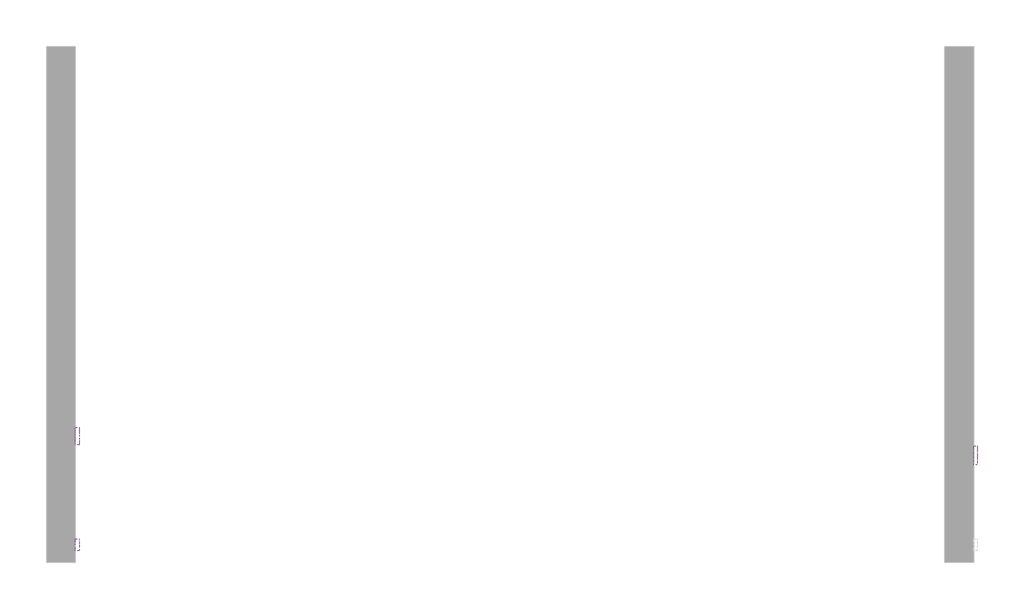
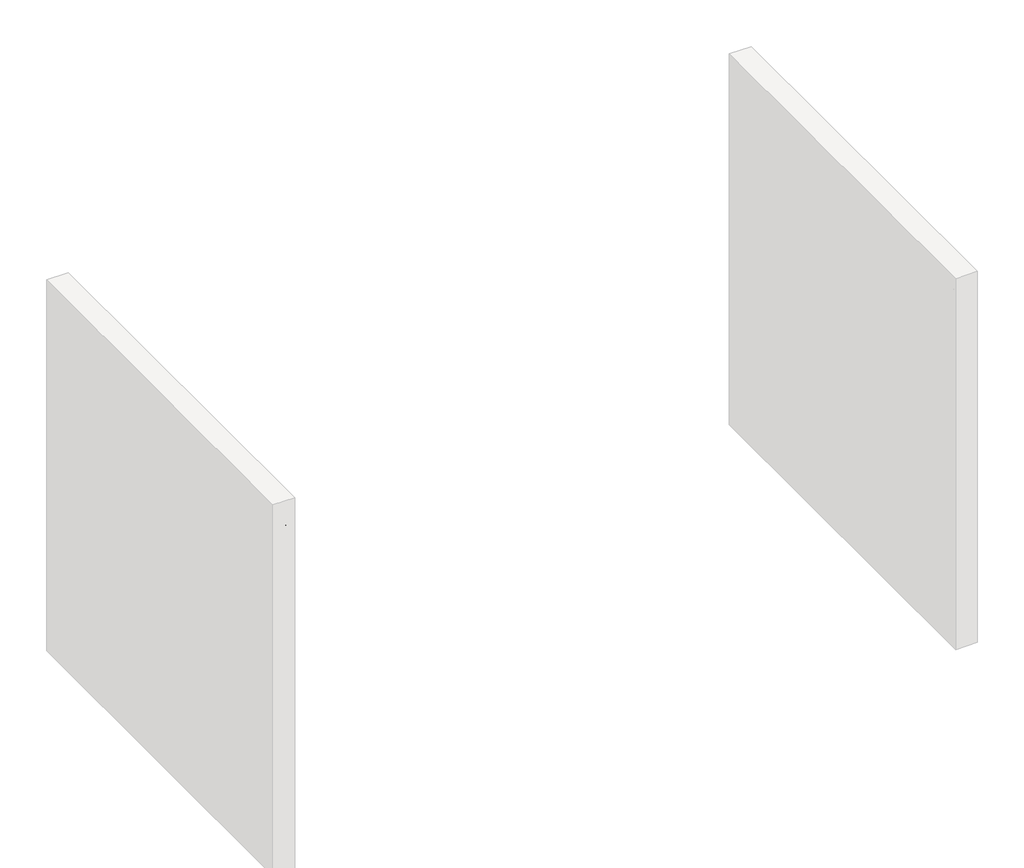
# One storey, part 2 of 12: 3 proxies.
"""IFC4 building model written with IfcOpenShell, lengths in millimetres."""

from ifc_helpers import new_model, si_unit, frame, origin, place, context, project, spatial, polyline, outline, extrude, element, save

model = new_model("IFC4")

# Units and contexts
model_context = context("Model", 3, world=origin())
ifc_project = project(units=[si_unit("LENGTHUNIT", "METRE", prefix="MILLI")], contexts=[model_context])

# Site, building, storey
site = spatial("IfcSite", under=ifc_project)
building = spatial("IfcBuilding", under=site)
storey = spatial("IfcBuildingStorey", under=building, Name="PORTOBELLO - SHOWROOM", Elevation=0.0)

# Proxies
placement = place(None, origin())
element("IfcBuildingElementProxy", 1, Name="10mm Arial", ObjectType="10mm Arial", at=placement, inside=storey, context=model_context, shape_type="SweptSolid", body=[
    extrude(outline(polyline([(-9176.6101833, 2548.8308244), (-9136.5110458, 2649.2871345), (-9125.8179425, 2649.2871345), (-9085.718805, 2548.8308244), (-9098.9870823, 2548.8308244), (-9110.489526, 2580.2234213), (-9151.8639877, 2580.2234213), (-9163.341906, 2548.8308244), (-9176.6101833, 2548.8308244)]), holes=[polyline([(-9147.2532, 2592.7804601), (-9115.0757882, 2592.7804601), (-9124.1256853, 2617.4776047), (-9131.1644941, 2636.7300958), (-9137.418488, 2619.6358457), (-9147.2532, 2592.7804601)])]), frame((13302.9163978, 0.0, 0.0), z_axis=(1.0, 0.0, 0.0), x_axis=(0.0, 1.0, 0.0)), (0.0, 0.0, 1.0), 20.0),
    extrude(outline(polyline([(-9073.8730047, 2548.8308244), (-9073.8730047, 2622.6034272), (-9062.8855958, 2622.6034272), (-9062.8855958, 2611.6895946), (-9055.0864975, 2621.7450358), (-9047.2383483, 2624.173057), (-9034.6322586, 2620.2980333), (-9038.8261133, 2609.0408443), (-9047.6552812, 2611.6160182), (-9054.7554037, 2609.1389461), (-9059.2803523, 2602.2718156), (-9061.315966, 2587.6055867), (-9061.315966, 2548.8308244), (-9073.8730047, 2548.8308244)])), frame((13302.9163978, 0.0, 0.0), z_axis=(1.0, 0.0, 0.0), x_axis=(0.0, 1.0, 0.0)), (0.0, 0.0, 1.0), 20.0),
    extrude(outline(polyline([(-8979.695214, 2575.5145318), (-8967.1381752, 2573.9449019), (-8970.6391855, 2562.7766177), (-8977.2181419, 2554.3367916), (-8986.2557762, 2549.0300938), (-8997.1328205, 2547.2611945), (-9010.4900027, 2549.7290696), (-9020.9347856, 2557.1326947), (-9027.6762232, 2569.1471076), (-9029.923369, 2585.4473456), (-9026.0851336, 2606.3062548), (-9014.3864861, 2619.7094221), (-8997.3044988, 2624.173057), (-8986.6941689, 2622.6402154), (-8978.2114233, 2618.0416904), (-8972.1260419, 2610.6227368), (-8968.707805, 2600.6286093), (-8981.2648438, 2599.0589795), (-8987.0896421, 2608.4644958), (-8997.2063969, 2611.6160182), (-9005.3212606, 2610.0647825), (-9011.7622612, 2605.4110752), (-9015.965313, 2597.4035105), (-9017.3663303, 2585.7907022), (-9015.9959698, 2574.021544), (-9011.8848885, 2565.9863881), (-9005.5603839, 2561.360272), (-8997.5497535, 2559.8182333), (-8985.716216, 2563.6687315), (-8979.695214, 2575.5145318)])), frame((13302.9163978, 0.0, 0.0), z_axis=(1.0, 0.0, 0.0), x_axis=(0.0, 1.0, 0.0)), (0.0, 0.0, 1.0), 20.0),
    extrude(outline(polyline([(-8959.290026, 2585.7171258), (-8956.5738306, 2603.5042202), (-8948.4252444, 2616.0060767), (-8938.3575404, 2622.1313119), (-8926.3032737, 2624.173057), (-8913.1116385, 2621.6867878), (-8902.574885, 2614.2279804), (-8895.6679006, 2602.3852458), (-8893.3655724, 2586.7471954), (-8897.4367999, 2564.4044955), (-8909.2948628, 2551.7616176), (-8926.3032737, 2547.2611945), (-8939.6543245, 2549.7382666), (-8950.1788152, 2557.1694829), (-8957.0122233, 2569.2605379), (-8959.290026, 2585.7171258)]), holes=[polyline([(-8946.7329872, 2585.7416512), (-8945.2798533, 2574.3771633), (-8940.9204517, 2566.2806937), (-8934.3598894, 2561.4338484), (-8926.3032737, 2559.8182333), (-8918.2834462, 2561.4430455), (-8911.7351467, 2566.3174819), (-8907.3757451, 2574.5212504), (-8905.9226112, 2586.1340587), (-8907.3849421, 2597.1674529), (-8911.7719349, 2605.1535578), (-8918.3294315, 2610.0004031), (-8926.3032737, 2611.6160182), (-8934.3598894, 2610.0065345), (-8940.9204517, 2605.1780833), (-8945.2798533, 2597.1000078), (-8946.7329872, 2585.7416512)])]), frame((13302.9163978, 0.0, 0.0), z_axis=(1.0, 0.0, 0.0), x_axis=(0.0, 1.0, 0.0)), (0.0, 0.0, 1.0), 20.0),
    extrude(outline(polyline([(-8843.1374174, 2583.362681), (-8830.5803786, 2583.362681), (-8826.5336766, 2570.7933795), (-8816.6499137, 2562.8471284), (-8801.5912774, 2559.8182333), (-8788.4701529, 2562.1113644), (-8779.9966043, 2568.4144093), (-8777.2129638, 2576.838907), (-8779.2976285, 2584.6747934), (-8787.8324908, 2590.3769644), (-8806.1162259, 2595.171693), (-8825.7979127, 2601.3643733), (-8836.4787532, 2610.708576), (-8839.9981577, 2623.1920383), (-8835.6448874, 2637.4045461), (-8822.9284331, 2647.4354618), (-8804.3136041, 2650.8567644), (-8784.4479764, 2647.2760463), (-8771.2042246, 2636.7546212), (-8766.2255549, 2621.0337973), (-8778.7825937, 2621.0337973), (-8781.0879875, 2628.5263273), (-8785.8949789, 2633.9341926), (-8803.8230948, 2638.2997256), (-8821.8002616, 2633.9832435), (-8827.4411189, 2623.5599203), (-8823.4434679, 2614.8533798), (-8802.940178, 2607.8390964), (-8780.7201055, 2601.5360516), (-8768.5677369, 2591.357983), (-8764.6559251, 2577.157738), (-8769.1563481, 2562.1358899), (-8782.1057944, 2551.1730064), (-8801.100768, 2547.2611945), (-8823.529307, 2551.4795747), (-8837.7172893, 2564.1837663), (-8843.1374174, 2583.362681)])), frame((13302.9163978, 0.0, 0.0), z_axis=(1.0, 0.0, 0.0), x_axis=(0.0, 1.0, 0.0)), (0.0, 0.0, 1.0), 20.0),
    extrude(outline(polyline([(13322.9163978, -8734.832958), (13322.9163978, -8747.3899968), (13302.9163978, -8747.3899968), (13302.9163978, -8734.832958), (13322.9163978, -8734.832958)])), frame((0.0, 0.0, 2636.7300958), z_axis=(0.0, 0.0, 1.0), x_axis=(1.0, 0.0, 0.0)), (0.0, 0.0, 1.0), 12.5570388),
    extrude(outline(polyline([(13322.9163978, -8734.832958), (13322.9163978, -8747.3899968), (13302.9163978, -8747.3899968), (13302.9163978, -8734.832958), (13322.9163978, -8734.832958)])), frame((0.0, 0.0, 2548.8308244), z_axis=(0.0, 0.0, 1.0), x_axis=(1.0, 0.0, 0.0)), (0.0, 0.0, 1.0), 73.7726028),
    extrude(outline(polyline([(-8715.9973998, 2548.8308244), (-8715.9973998, 2622.6034272), (-8703.4403611, 2622.6034272), (-8703.4403611, 2610.4633213), (-8694.8073969, 2620.4083979), (-8682.5201383, 2624.173057), (-8669.938574, 2620.3348215), (-8663.0223925, 2609.5804045), (-8653.2244687, 2620.5248939), (-8640.8513709, 2624.173057), (-8631.4121321, 2622.6555438), (-8624.4315712, 2618.1030041), (-8620.1181548, 2610.3928106), (-8618.6803494, 2599.402336), (-8618.6803494, 2548.8308244), (-8631.2373881, 2548.8308244), (-8631.2373881, 2594.0067334), (-8632.4023478, 2604.4913703), (-8636.620728, 2609.6539809), (-8643.7944269, 2611.6160182), (-8656.1429992, 2606.5882976), (-8659.8310162, 2600.0461295), (-8661.0603552, 2590.4750662), (-8661.0603552, 2548.8308244), (-8673.617394, 2548.8308244), (-8673.617394, 2595.404685), (-8676.5236617, 2607.5693163), (-8686.0518054, 2611.6160182), (-8695.3469572, 2608.9182169), (-8701.5273747, 2601.0210168), (-8703.4403611, 2586.0359568), (-8703.4403611, 2548.8308244), (-8715.9973998, 2548.8308244)])), frame((13302.9163978, 0.0, 0.0), z_axis=(1.0, 0.0, 0.0), x_axis=(0.0, 1.0, 0.0)), (0.0, 0.0, 1.0), 20.0),
    extrude(outline(polyline([(-8599.8447912, 2520.5774872), (-8599.8447912, 2622.6034272), (-8587.2877524, 2622.6034272), (-8587.2877524, 2610.291643), (-8578.6057374, 2620.7027035), (-8566.8825645, 2624.173057), (-8550.9655368, 2619.3170147), (-8540.5667391, 2605.6318044), (-8537.0595974, 2586.2812115), (-8541.0204602, 2565.9373372), (-8552.5229039, 2552.0804487), (-8568.4031434, 2547.2611945), (-8579.3292386, 2550.4862934), (-8587.2877524, 2558.6410109), (-8587.2877524, 2520.5774872), (-8599.8447912, 2520.5774872)]), holes=[polyline([(-8587.2877524, 2585.1285146), (-8585.9296548, 2573.8713255), (-8581.8553617, 2565.9986508), (-8575.8435567, 2561.3633377), (-8568.6729235, 2559.8182333), (-8561.3857943, 2561.41852), (-8555.2207052, 2566.21938), (-8551.0176534, 2574.3802289), (-8549.6166361, 2586.0604823), (-8550.9839309, 2597.2563577), (-8555.0858151, 2605.239397), (-8561.088423, 2610.0218629), (-8568.1578887, 2611.6160182), (-8575.2549455, 2609.9206954), (-8581.4874797, 2604.8347268), (-8585.8376843, 2596.517528), (-8587.2877524, 2585.1285146)])]), frame((13302.9163978, 0.0, 0.0), z_axis=(1.0, 0.0, 0.0), x_axis=(0.0, 1.0, 0.0)), (0.0, 0.0, 1.0), 20.0),
    extrude(outline(polyline([(13322.9163978, -8510.37589), (13322.9163978, -8522.9329288), (13302.9163978, -8522.9329288), (13302.9163978, -8510.37589), (13322.9163978, -8510.37589)])), frame((0.0, 0.0, 2548.8308244), z_axis=(0.0, 0.0, 1.0), x_axis=(1.0, 0.0, 0.0)), (0.0, 0.0, 1.0), 100.4563101),
    extrude(outline(polyline([(-8439.8896997, 2570.8056422), (-8427.5779156, 2569.2360124), (-8432.0139593, 2559.9592547), (-8439.0926221, 2553.0246791), (-8448.6544883, 2548.7020657), (-8460.5401424, 2547.2611945), (-8475.2738163, 2549.7474637), (-8486.6107131, 2557.2062711), (-8493.8395943, 2569.1532389), (-8496.2492214, 2585.1039891), (-8493.8150688, 2601.5912339), (-8486.5126112, 2613.9214121), (-8475.3289986, 2621.6101458), (-8461.2513809, 2624.173057), (-8447.6121559, 2621.6162771), (-8436.7136518, 2613.9459375), (-8429.5675441, 2601.6402848), (-8427.1855081, 2585.1775655), (-8427.2590845, 2581.7930512), (-8483.6921826, 2581.7930512), (-8481.5186132, 2572.3936662), (-8476.4694328, 2565.483616), (-8469.1823036, 2561.234579), (-8460.2948877, 2559.8182333), (-8447.9831036, 2562.4424582), (-8439.8896997, 2570.8056422)]), holes=[polyline([(-8483.6921826, 2594.3500899), (-8439.7425469, 2594.3500899), (-8444.7702675, 2605.7299063), (-8452.0911192, 2610.1444902), (-8461.3004318, 2611.6160182), (-8476.7637384, 2606.9193914), (-8481.6289778, 2601.4287526), (-8483.6921826, 2594.3500899)])]), frame((13302.9163978, 0.0, 0.0), z_axis=(1.0, 0.0, 0.0), x_axis=(0.0, 1.0, 0.0)), (0.0, 0.0, 1.0), 20.0),
    extrude(outline(polyline([(-8419.3373589, 2570.8056422), (-8406.7803201, 2572.3752721), (-8400.9677846, 2563.0555949), (-8387.6504564, 2559.8182333), (-8374.848163, 2562.7858147), (-8370.6788337, 2569.7510472), (-8374.8726884, 2575.3919044), (-8387.7976092, 2578.9726225), (-8406.7067438, 2585.1162518), (-8414.9595632, 2592.2899507), (-8417.7677291, 2602.4189683), (-8415.5113862, 2611.7754338), (-8409.3554941, 2618.9246072), (-8401.3724548, 2622.6402154), (-8390.5689869, 2624.173057), (-8375.2896214, 2621.7082476), (-8365.5775367, 2615.0373208), (-8361.2610546, 2603.767869), (-8373.8180934, 2602.1982392), (-8378.5392457, 2609.1266834), (-8389.5879682, 2611.6160182), (-8401.6054468, 2609.237048), (-8405.2106903, 2603.6942926), (-8403.7146369, 2600.0399981), (-8399.0302728, 2597.2686204), (-8388.2145421, 2594.5953446), (-8369.7836542, 2588.6847072), (-8361.2242664, 2581.9892549), (-8358.1217949, 2571.0754224), (-8361.7638267, 2559.0579439), (-8372.272989, 2550.3391406), (-8387.8221347, 2547.2611945), (-8400.4834067, 2548.7449853), (-8409.7233761, 2553.1963574), (-8415.8915309, 2560.56626), (-8419.3373589, 2570.8056422)])), frame((13302.9163978, 0.0, 0.0), z_axis=(1.0, 0.0, 0.0), x_axis=(0.0, 1.0, 0.0)), (0.0, 0.0, 1.0), 20.0),
    extrude(outline(polyline([(-8253.103748, 2570.8056422), (-8240.7919639, 2569.2360124), (-8245.2280077, 2559.9592547), (-8252.3066704, 2553.0246791), (-8261.8685366, 2548.7020657), (-8273.7541907, 2547.2611945), (-8288.4878646, 2549.7474637), (-8299.8247614, 2557.2062711), (-8307.0536426, 2569.1532389), (-8309.4632697, 2585.1039891), (-8307.0291172, 2601.5912339), (-8299.7266596, 2613.9214121), (-8288.5430469, 2621.6101458), (-8274.4654292, 2624.173057), (-8260.8262042, 2621.6162771), (-8249.9277001, 2613.9459375), (-8242.7815924, 2601.6402848), (-8240.3995565, 2585.1775655), (-8240.4731329, 2581.7930512), (-8296.9062309, 2581.7930512), (-8294.7326615, 2572.3936662), (-8289.6834811, 2565.483616), (-8282.3963519, 2561.234579), (-8273.508936, 2559.8182333), (-8261.1971519, 2562.4424582), (-8253.103748, 2570.8056422)]), holes=[polyline([(-8296.9062309, 2594.3500899), (-8252.9565952, 2594.3500899), (-8257.9843158, 2605.7299063), (-8265.3051675, 2610.1444902), (-8274.5144802, 2611.6160182), (-8289.9777867, 2606.9193914), (-8294.8430261, 2601.4287526), (-8296.9062309, 2594.3500899)])]), frame((13302.9163978, 0.0, 0.0), z_axis=(1.0, 0.0, 0.0), x_axis=(0.0, 1.0, 0.0)), (0.0, 0.0, 1.0), 20.0),
    extrude(outline(polyline([(-8161.9180642, 2548.8308244), (-8161.9180642, 2636.7300958), (-8194.8802909, 2636.7300958), (-8194.8802909, 2649.2871345), (-8116.3987986, 2649.2871345), (-8116.3987986, 2636.7300958), (-8149.3610254, 2636.7300958), (-8149.3610254, 2548.8308244), (-8161.9180642, 2548.8308244)])), frame((13302.9163978, 0.0, 0.0), z_axis=(1.0, 0.0, 0.0), x_axis=(0.0, 1.0, 0.0)), (0.0, 0.0, 1.0), 20.0),
    extrude(outline(polyline([(-8103.8417599, 2548.8308244), (-8103.8417599, 2622.6034272), (-8092.8543509, 2622.6034272), (-8092.8543509, 2611.6895946), (-8085.0552526, 2621.7450358), (-8077.2071034, 2624.173057), (-8064.6010137, 2620.2980333), (-8068.7948684, 2609.0408443), (-8077.6240363, 2611.6160182), (-8084.7241588, 2609.1389461), (-8089.2491074, 2602.2718156), (-8091.2847211, 2587.6055867), (-8091.2847211, 2548.8308244), (-8103.8417599, 2548.8308244)])), frame((13302.9163978, 0.0, 0.0), z_axis=(1.0, 0.0, 0.0), x_axis=(0.0, 1.0, 0.0)), (0.0, 0.0, 1.0), 20.0),
    extrude(outline(polyline([(13322.9163978, -8044.1958257), (13322.9163978, -8056.7528645), (13302.9163978, -8056.7528645), (13302.9163978, -8044.1958257), (13322.9163978, -8044.1958257)])), frame((0.0, 0.0, 2636.7300958), z_axis=(0.0, 0.0, 1.0), x_axis=(1.0, 0.0, 0.0)), (0.0, 0.0, 1.0), 12.5570388),
    extrude(outline(polyline([(13322.9163978, -8044.1958257), (13322.9163978, -8056.7528645), (13302.9163978, -8056.7528645), (13302.9163978, -8044.1958257), (13322.9163978, -8044.1958257)])), frame((0.0, 0.0, 2548.8308244), z_axis=(0.0, 0.0, 1.0), x_axis=(1.0, 0.0, 0.0)), (0.0, 0.0, 1.0), 73.7726028),
    extrude(outline(polyline([(-8025.3602676, 2520.5774872), (-8025.3602676, 2622.6034272), (-8012.8032288, 2622.6034272), (-8012.8032288, 2610.291643), (-8004.1212137, 2620.7027035), (-7992.3980408, 2624.173057), (-7976.4810131, 2619.3170147), (-7966.0822154, 2605.6318044), (-7962.5750737, 2586.2812115), (-7966.5359365, 2565.9373372), (-7978.0383802, 2552.0804487), (-7993.9186197, 2547.2611945), (-8004.844715, 2550.4862934), (-8012.8032288, 2558.6410109), (-8012.8032288, 2520.5774872), (-8025.3602676, 2520.5774872)]), holes=[polyline([(-8012.8032288, 2585.1285146), (-8011.4451311, 2573.8713255), (-8007.370838, 2565.9986508), (-8001.359033, 2561.3633377), (-7994.1883998, 2559.8182333), (-7986.9012706, 2561.41852), (-7980.7361815, 2566.21938), (-7976.5331297, 2574.3802289), (-7975.1321125, 2586.0604823), (-7976.4994072, 2597.2563577), (-7980.6012915, 2605.239397), (-7986.6038994, 2610.0218629), (-7993.673365, 2611.6160182), (-8000.7704219, 2609.9206954), (-8007.002956, 2604.8347268), (-8011.3531606, 2596.517528), (-8012.8032288, 2585.1285146)])]), frame((13302.9163978, 0.0, 0.0), z_axis=(1.0, 0.0, 0.0), x_axis=(0.0, 1.0, 0.0)), (0.0, 0.0, 1.0), 20.0),
    extrude(outline(polyline([(13322.9163978, -7935.8913663), (13322.9163978, -7948.4484051), (13302.9163978, -7948.4484051), (13302.9163978, -7935.8913663), (13322.9163978, -7935.8913663)])), frame((0.0, 0.0, 2548.8308244), z_axis=(0.0, 0.0, 1.0), x_axis=(1.0, 0.0, 0.0)), (0.0, 0.0, 1.0), 100.4563101),
    extrude(outline(polyline([(-7920.1950679, 2585.7171258), (-7917.4788725, 2603.5042202), (-7909.3302863, 2616.0060767), (-7899.2625823, 2622.1313119), (-7887.2083156, 2624.173057), (-7874.0166804, 2621.6867878), (-7863.4799269, 2614.2279804), (-7856.5729425, 2602.3852458), (-7854.2706143, 2586.7471954), (-7858.3418417, 2564.4044955), (-7870.1999047, 2551.7616176), (-7887.2083156, 2547.2611945), (-7900.5593664, 2549.7382666), (-7911.0838571, 2557.1694829), (-7917.9172652, 2569.2605379), (-7920.1950679, 2585.7171258)]), holes=[polyline([(-7907.6380291, 2585.7416512), (-7906.1848952, 2574.3771633), (-7901.8254936, 2566.2806937), (-7895.2649313, 2561.4338484), (-7887.2083156, 2559.8182333), (-7879.1884881, 2561.4430455), (-7872.6401886, 2566.3174819), (-7868.280787, 2574.5212504), (-7866.8276531, 2586.1340587), (-7868.289984, 2597.1674529), (-7872.6769768, 2605.1535578), (-7879.2344734, 2610.0004031), (-7887.2083156, 2611.6160182), (-7895.2649313, 2610.0065345), (-7901.8254936, 2605.1780833), (-7906.1848952, 2597.1000078), (-7907.6380291, 2585.7416512)])]), frame((13302.9163978, 0.0, 0.0), z_axis=(1.0, 0.0, 0.0), x_axis=(0.0, 1.0, 0.0)), (0.0, 0.0, 1.0), 20.0),
])
element("IfcBuildingElementProxy", 2, Name="10mm Arial", ObjectType="10mm Arial", at=placement, inside=storey, context=model_context, shape_type="SweptSolid", body=[
    extrude(outline(polyline([(-9164.9115358, 2548.8308244), (-9164.9115358, 2649.2871345), (-9151.4715803, 2649.2871345), (-9098.9870823, 2569.7019962), (-9098.9870823, 2649.2871345), (-9086.4300435, 2649.2871345), (-9086.4300435, 2548.8308244), (-9099.8699991, 2548.8308244), (-9152.354497, 2628.4404881), (-9152.354497, 2548.8308244), (-9164.9115358, 2548.8308244)])), frame((8602.9163978, 0.0, 0.0), z_axis=(1.0, 0.0, 0.0), x_axis=(0.0, 1.0, 0.0)), (0.0, 0.0, 1.0), 20.0),
    extrude(outline(polyline([(-9069.1641152, 2585.7171258), (-9066.4479198, 2603.5042202), (-9058.2993336, 2616.0060767), (-9048.2316297, 2622.1313119), (-9036.177363, 2624.173057), (-9022.9857278, 2621.6867878), (-9012.4489743, 2614.2279804), (-9005.5419898, 2602.3852458), (-9003.2396617, 2586.7471954), (-9007.3108891, 2564.4044955), (-9019.1689521, 2551.7616176), (-9036.177363, 2547.2611945), (-9049.5284137, 2549.7382666), (-9060.0529045, 2557.1694829), (-9066.8863125, 2569.2605379), (-9069.1641152, 2585.7171258)]), holes=[polyline([(-9056.6070764, 2585.7416512), (-9055.1539425, 2574.3771633), (-9050.7945409, 2566.2806937), (-9044.2339787, 2561.4338484), (-9036.177363, 2559.8182333), (-9028.1575355, 2561.4430455), (-9021.609236, 2566.3174819), (-9017.2498343, 2574.5212504), (-9015.7967004, 2586.1340587), (-9017.2590314, 2597.1674529), (-9021.6460242, 2605.1535578), (-9028.2035207, 2610.0004031), (-9036.177363, 2611.6160182), (-9044.2339787, 2610.0065345), (-9050.7945409, 2605.1780833), (-9055.1539425, 2597.1000078), (-9056.6070764, 2585.7416512)])]), frame((8602.9163978, 0.0, 0.0), z_axis=(1.0, 0.0, 0.0), x_axis=(0.0, 1.0, 0.0)), (0.0, 0.0, 1.0), 20.0),
    extrude(outline(polyline([(-8971.0131989, 2548.8308244), (-8996.9611423, 2622.6034272), (-8983.6683395, 2622.6034272), (-8967.9475156, 2578.4085368), (-8963.2141006, 2563.5461042), (-8958.5787874, 2577.5746709), (-8942.7598617, 2622.6034272), (-8929.4670589, 2622.6034272), (-8955.0961712, 2548.8308244), (-8971.0131989, 2548.8308244)])), frame((8602.9163978, 0.0, 0.0), z_axis=(1.0, 0.0, 0.0), x_axis=(0.0, 1.0, 0.0)), (0.0, 0.0, 1.0), 20.0),
    extrude(outline(polyline([(-8866.8290179, 2570.8056422), (-8854.5172337, 2569.2360124), (-8858.9532775, 2559.9592547), (-8866.0319402, 2553.0246791), (-8875.5938064, 2548.7020657), (-8887.4794605, 2547.2611945), (-8902.2131344, 2549.7474637), (-8913.5500312, 2557.2062711), (-8920.7789124, 2569.1532389), (-8923.1885395, 2585.1039891), (-8920.754387, 2601.5912339), (-8913.4519294, 2613.9214121), (-8902.2683167, 2621.6101458), (-8888.190699, 2624.173057), (-8874.5514741, 2621.6162771), (-8863.65297, 2613.9459375), (-8856.5068622, 2601.6402848), (-8854.1248263, 2585.1775655), (-8854.1984027, 2581.7930512), (-8910.6315007, 2581.7930512), (-8908.4579313, 2572.3936662), (-8903.4087509, 2565.483616), (-8896.1216217, 2561.234579), (-8887.2342059, 2559.8182333), (-8874.9224217, 2562.4424582), (-8866.8290179, 2570.8056422)]), holes=[polyline([(-8910.6315007, 2594.3500899), (-8866.6818651, 2594.3500899), (-8871.7095857, 2605.7299063), (-8879.0304374, 2610.1444902), (-8888.23975, 2611.6160182), (-8903.7030565, 2606.9193914), (-8908.5682959, 2601.4287526), (-8910.6315007, 2594.3500899)])]), frame((8602.9163978, 0.0, 0.0), z_axis=(1.0, 0.0, 0.0), x_axis=(0.0, 1.0, 0.0)), (0.0, 0.0, 1.0), 20.0),
    extrude(outline(polyline([(-8841.5677875, 2548.8308244), (-8841.5677875, 2622.6034272), (-8829.0107487, 2622.6034272), (-8829.0107487, 2612.3027313), (-8819.4090287, 2621.2054756), (-8806.3001669, 2624.173057), (-8794.4421039, 2621.781824), (-8786.3487, 2615.5033046), (-8782.584041, 2606.2694666), (-8781.9218534, 2594.1293607), (-8781.9218534, 2548.8308244), (-8794.4788921, 2548.8308244), (-8794.4788921, 2592.4371035), (-8795.9258946, 2603.5471398), (-8801.0394544, 2609.420989), (-8809.6601558, 2611.6160182), (-8823.2840524, 2606.6863995), (-8827.5790746, 2599.5433574), (-8829.0107487, 2587.9734687), (-8829.0107487, 2548.8308244), (-8841.5677875, 2548.8308244)])), frame((8602.9163978, 0.0, 0.0), z_axis=(1.0, 0.0, 0.0), x_axis=(0.0, 1.0, 0.0)), (0.0, 0.0, 1.0), 20.0),
    extrude(outline(polyline([(-8737.9722177, 2559.3031985), (-8736.4025878, 2548.4629424), (-8745.7958414, 2547.2611945), (-8756.3172665, 2549.3458592), (-8761.5657163, 2554.8150382), (-8763.0862952, 2569.0643341), (-8763.0862952, 2610.0463884), (-8772.5040743, 2610.0463884), (-8772.5040743, 2622.6034272), (-8763.0862952, 2622.6034272), (-8763.0862952, 2640.531543), (-8750.5292564, 2647.9137084), (-8750.5292564, 2622.6034272), (-8737.9722177, 2622.6034272), (-8737.9722177, 2610.0463884), (-8750.5292564, 2610.0463884), (-8750.5292564, 2569.4322161), (-8749.8670689, 2562.957493), (-8747.7210905, 2560.6643619), (-8743.4413967, 2559.8182333), (-8737.9722177, 2559.3031985)])), frame((8602.9163978, 0.0, 0.0), z_axis=(1.0, 0.0, 0.0), x_axis=(0.0, 1.0, 0.0)), (0.0, 0.0, 1.0), 20.0),
    extrude(outline(polyline([(-8678.3262835, 2558.2486035), (-8690.5031776, 2549.7382666), (-8703.9553959, 2547.2611945), (-8714.4492298, 2548.7511166), (-8722.1900801, 2553.2208829), (-8726.963349, 2560.0083057), (-8728.5544386, 2568.4511975), (-8726.1509429, 2578.3840113), (-8719.8356353, 2585.5944984), (-8711.0432556, 2589.7147768), (-8700.178474, 2591.6032377), (-8678.3998599, 2595.9197198), (-8678.3262835, 2598.7156229), (-8681.7843743, 2607.9862492), (-8695.6657882, 2611.6160182), (-8708.3699798, 2609.2002598), (-8714.42777, 2600.6286093), (-8726.9848088, 2602.1982392), (-8721.552418, 2614.4609723), (-8710.61406, 2621.646934), (-8694.0471075, 2624.173057), (-8678.8290556, 2621.9412396), (-8670.2328796, 2616.3371705), (-8666.3823814, 2607.8145709), (-8665.7692448, 2596.827162), (-8665.7692448, 2581.20444), (-8665.1315826, 2559.3890376), (-8662.6299851, 2548.8308244), (-8675.1870238, 2548.8308244), (-8678.3262835, 2558.2486035)]), holes=[polyline([(-8678.3262835, 2583.362681), (-8698.5843187, 2579.5121828), (-8709.3877866, 2577.4765691), (-8714.2806172, 2574.1656311), (-8715.9973998, 2569.3341142), (-8712.2572662, 2562.5405601), (-8701.28212, 2559.8182333), (-8688.5779285, 2562.8226029), (-8680.3864227, 2570.0944037), (-8678.3998599, 2579.8064884), (-8678.3262835, 2583.362681)])]), frame((8602.9163978, 0.0, 0.0), z_axis=(1.0, 0.0, 0.0), x_axis=(0.0, 1.0, 0.0)), (0.0, 0.0, 1.0), 20.0),
    extrude(outline(polyline([(-8560.6040451, 2588.0715705), (-8560.6040451, 2600.6286093), (-8519.7936691, 2600.6286093), (-8519.7936691, 2563.0801203), (-8539.9413397, 2551.2343201), (-8561.2417072, 2547.2611945), (-8575.3285219, 2548.8400214), (-8588.0603046, 2553.5765021), (-8598.636912, 2561.3050897), (-8606.2582007, 2571.8602373), (-8610.8659227, 2584.5215093), (-8612.40183, 2598.5684701), (-8610.872054, 2612.7165985), (-8606.2827261, 2625.8775769), (-8598.8239187, 2636.9171024), (-8588.685704, 2644.7008723), (-8576.3371317, 2649.3177914), (-8562.2472513, 2650.8567644), (-8542.6023528, 2647.288309), (-8528.8313034, 2637.3554952), (-8521.2406716, 2620.7394917), (-8532.8166917, 2617.4776047), (-8538.5433881, 2629.090413), (-8548.3290492, 2635.7858653), (-8562.443455, 2638.2997256), (-8578.5198982, 2635.5896616), (-8589.4582562, 2628.4772763), (-8595.9207166, 2618.8019799), (-8599.8447912, 2599.0835049), (-8595.1236389, 2577.1945262), (-8581.3893778, 2564.0979272), (-8562.2472513, 2559.8182333), (-8545.0671621, 2563.0433321), (-8532.3507078, 2569.9227254), (-8532.3507078, 2588.0715705), (-8560.6040451, 2588.0715705)])), frame((8602.9163978, 0.0, 0.0), z_axis=(1.0, 0.0, 0.0), x_axis=(0.0, 1.0, 0.0)), (0.0, 0.0, 1.0), 20.0),
    extrude(outline(polyline([(-8500.9581109, 2548.8308244), (-8500.9581109, 2622.6034272), (-8489.970702, 2622.6034272), (-8489.970702, 2611.6895946), (-8482.1716037, 2621.7450358), (-8474.3234545, 2624.173057), (-8461.7173648, 2620.2980333), (-8465.9112195, 2609.0408443), (-8474.7403874, 2611.6160182), (-8481.8405099, 2609.1389461), (-8486.3654584, 2602.2718156), (-8488.4010721, 2587.6055867), (-8488.4010721, 2548.8308244), (-8500.9581109, 2548.8308244)])), frame((8602.9163978, 0.0, 0.0), z_axis=(1.0, 0.0, 0.0), x_axis=(0.0, 1.0, 0.0)), (0.0, 0.0, 1.0), 20.0),
    extrude(outline(polyline([(-8406.7803201, 2558.2486035), (-8418.9572142, 2549.7382666), (-8432.4094325, 2547.2611945), (-8442.9032664, 2548.7511166), (-8450.6441167, 2553.2208829), (-8455.4173856, 2560.0083057), (-8457.0084752, 2568.4511975), (-8454.6049795, 2578.3840113), (-8448.2896719, 2585.5944984), (-8439.4972923, 2589.7147768), (-8428.6325107, 2591.6032377), (-8406.8538965, 2595.9197198), (-8406.7803201, 2598.7156229), (-8410.2384109, 2607.9862492), (-8424.1198249, 2611.6160182), (-8436.8240164, 2609.2002598), (-8442.8818066, 2600.6286093), (-8455.4388454, 2602.1982392), (-8450.0064546, 2614.4609723), (-8439.0680966, 2621.646934), (-8422.5011441, 2624.173057), (-8407.2830922, 2621.9412396), (-8398.6869163, 2616.3371705), (-8394.836418, 2607.8145709), (-8394.2232814, 2596.827162), (-8394.2232814, 2581.20444), (-8393.5856193, 2559.3890376), (-8391.0840217, 2548.8308244), (-8403.6410605, 2548.8308244), (-8406.7803201, 2558.2486035)]), holes=[polyline([(-8406.7803201, 2583.362681), (-8427.0383554, 2579.5121828), (-8437.8418233, 2577.4765691), (-8442.7346538, 2574.1656311), (-8444.4514365, 2569.3341142), (-8440.7113028, 2562.5405601), (-8429.7361566, 2559.8182333), (-8417.0319651, 2562.8226029), (-8408.8404593, 2570.0944037), (-8406.8538965, 2579.8064884), (-8406.7803201, 2583.362681)])]), frame((8602.9163978, 0.0, 0.0), z_axis=(1.0, 0.0, 0.0), x_axis=(0.0, 1.0, 0.0)), (0.0, 0.0, 1.0), 20.0),
    extrude(outline(polyline([(-8329.8684577, 2548.8308244), (-8329.8684577, 2561.5104905), (-8339.7031697, 2550.8235185), (-8352.5299886, 2547.2611945), (-8364.3390006, 2549.7627921), (-8372.4814555, 2556.0413115), (-8376.2215891, 2565.2874123), (-8376.9573531, 2576.9615343), (-8376.9573531, 2622.6034272), (-8364.4003143, 2622.6034272), (-8364.4003143, 2582.8721717), (-8363.6400248, 2570.0698782), (-8358.6736179, 2562.5528228), (-8349.3171525, 2559.8182333), (-8338.8325156, 2562.6141365), (-8331.9040714, 2570.2292938), (-8329.8684577, 2584.2210723), (-8329.8684577, 2622.6034272), (-8317.3114189, 2622.6034272), (-8317.3114189, 2548.8308244), (-8329.8684577, 2548.8308244)])), frame((8602.9163978, 0.0, 0.0), z_axis=(1.0, 0.0, 0.0), x_axis=(0.0, 1.0, 0.0)), (0.0, 0.0, 1.0), 20.0),
    extrude(outline(polyline([(-8304.7543802, 2570.8056422), (-8292.1973414, 2572.3752721), (-8286.3848059, 2563.0555949), (-8273.0674776, 2559.8182333), (-8260.2651842, 2562.7858147), (-8256.0958549, 2569.7510472), (-8260.2897097, 2575.3919044), (-8273.2146304, 2578.9726225), (-8292.123765, 2585.1162518), (-8300.3765844, 2592.2899507), (-8303.1847503, 2602.4189683), (-8300.9284074, 2611.7754338), (-8294.7725154, 2618.9246072), (-8286.7894761, 2622.6402154), (-8275.9860081, 2624.173057), (-8260.7066426, 2621.7082476), (-8250.9945579, 2615.0373208), (-8246.6780758, 2603.767869), (-8259.2351146, 2602.1982392), (-8263.9562669, 2609.1266834), (-8275.0049895, 2611.6160182), (-8287.022468, 2609.237048), (-8290.6277115, 2603.6942926), (-8289.1316581, 2600.0399981), (-8284.447294, 2597.2686204), (-8273.6315634, 2594.5953446), (-8255.2006754, 2588.6847072), (-8246.6412876, 2581.9892549), (-8243.5388162, 2571.0754224), (-8247.1808479, 2559.0579439), (-8257.6900102, 2550.3391406), (-8273.2391559, 2547.2611945), (-8285.9004279, 2548.7449853), (-8295.1403973, 2553.1963574), (-8301.3085521, 2560.56626), (-8304.7543802, 2570.8056422)])), frame((8602.9163978, 0.0, 0.0), z_axis=(1.0, 0.0, 0.0), x_axis=(0.0, 1.0, 0.0)), (0.0, 0.0, 1.0), 20.0),
    extrude(outline(polyline([(-8188.6017715, 2548.8308244), (-8188.6017715, 2649.2871345), (-8166.9948357, 2649.2871345), (-8146.4424949, 2578.4821132), (-8142.2976911, 2563.693257), (-8137.8095307, 2579.7083865), (-8117.6005465, 2649.2871345), (-8095.9936106, 2649.2871345), (-8095.9936106, 2548.8308244), (-8108.5506494, 2548.8308244), (-8108.5506494, 2636.7300958), (-8133.7873543, 2548.8308244), (-8150.8080279, 2548.8308244), (-8176.0447328, 2636.7300958), (-8176.0447328, 2548.8308244), (-8188.6017715, 2548.8308244)])), frame((8602.9163978, 0.0, 0.0), z_axis=(1.0, 0.0, 0.0), x_axis=(0.0, 1.0, 0.0)), (0.0, 0.0, 1.0), 20.0),
    extrude(outline(polyline([(8622.9163978, -8063.0313839), (8622.9163978, -8075.5884226), (8602.9163978, -8075.5884226), (8602.9163978, -8063.0313839), (8622.9163978, -8063.0313839)])), frame((0.0, 0.0, 2636.7300958), z_axis=(0.0, 0.0, 1.0), x_axis=(1.0, 0.0, 0.0)), (0.0, 0.0, 1.0), 12.5570388),
    extrude(outline(polyline([(8622.9163978, -8063.0313839), (8622.9163978, -8075.5884226), (8602.9163978, -8075.5884226), (8602.9163978, -8063.0313839), (8622.9163978, -8063.0313839)])), frame((0.0, 0.0, 2548.8308244), z_axis=(0.0, 0.0, 1.0), x_axis=(1.0, 0.0, 0.0)), (0.0, 0.0, 1.0), 73.7726028),
    extrude(outline(polyline([(-8052.0439749, 2548.8308244), (-8025.2131148, 2585.9133295), (-8050.4743451, 2622.6034272), (-8035.3666578, 2622.6034272), (-8023.177501, 2604.9450914), (-8017.4875929, 2596.6064328), (-8012.5579741, 2603.4245125), (-7998.6765602, 2622.6034272), (-7983.5688729, 2622.6034272), (-8010.1054275, 2585.9133295), (-7984.5498916, 2548.8308244), (-7999.6575788, 2548.8308244), (-8015.0350462, 2571.1244733), (-8017.8554748, 2575.1957007), (-8036.9362877, 2548.8308244), (-8052.0439749, 2548.8308244)])), frame((8602.9163978, 0.0, 0.0), z_axis=(1.0, 0.0, 0.0), x_axis=(0.0, 1.0, 0.0)), (0.0, 0.0, 1.0), 20.0),
])
element("IfcBuildingElementProxy", 3, Name="10mm Arial Narrow", ObjectType="10mm Arial Narrow", at=placement, inside=storey, context=model_context, shape_type="SweptSolid", body=[
    extrude(outline(polyline([(-9167.7764767, 2398.8308244), (-9167.7764767, 2499.5494281), (-9136.479592, 2499.5494281), (-9120.1838905, 2497.6711074), (-9108.7109044, 2488.1906642), (-9104.4212259, 2471.1715554), (-9106.2075343, 2459.0957299), (-9111.5664595, 2449.4693361), (-9121.3102484, 2443.1680777), (-9136.2511476, 2441.0676582), (-9158.029515, 2441.0676582), (-9158.029515, 2398.8308244), (-9167.7764767, 2398.8308244)]), holes=[polyline([(-9158.029515, 2452.4391135), (-9135.0581601, 2452.4391135), (-9119.1939647, 2456.9699277), (-9114.1681876, 2470.6385184), (-9116.6430021, 2480.8042949), (-9122.6206309, 2486.6042447), (-9135.2866045, 2488.1779729), (-9158.029515, 2488.1779729), (-9158.029515, 2452.4391135)])]), frame((8602.9163978, 0.0, 0.0), z_axis=(1.0, 0.0, 0.0), x_axis=(0.0, 1.0, 0.0)), (0.0, 0.0, 1.0), 20.0),
    extrude(outline(polyline([(-9096.2987579, 2435.3819306), (-9094.344289, 2451.9727061), (-9088.4808824, 2463.9247909), (-9079.6223157, 2471.1493455), (-9068.6823665, 2473.5575304), (-9057.869331, 2471.1493455), (-9048.9853815, 2463.9247909), (-9043.0458268, 2452.1630765), (-9041.0659752, 2436.143412), (-9043.0109255, 2418.9815254), (-9048.8457766, 2406.8390702), (-9057.6948248, 2399.6145156), (-9068.6823665, 2397.2063308), (-9079.5429947, 2399.6208613), (-9088.4174256, 2406.8644529), (-9094.3284248, 2418.8228834), (-9096.2987579, 2435.3819306)]), holes=[polyline([(-9086.5517962, 2435.4073133), (-9085.2477594, 2422.8555619), (-9081.3356488, 2413.9843038), (-9075.494452, 2408.7110453), (-9068.4031567, 2406.9532924), (-9061.6830835, 2408.7269095), (-9055.9910102, 2414.0477606), (-9052.1074552, 2422.9348829), (-9050.8129368, 2435.4073133), (-9052.1169737, 2447.9209906), (-9056.0290843, 2456.7795573), (-9061.870281, 2462.0528159), (-9068.9615764, 2463.8105687), (-9075.7292421, 2462.0432974), (-9081.4117969, 2456.7414833), (-9085.2667964, 2447.873398), (-9086.5517962, 2435.4073133)])]), frame((8602.9163978, 0.0, 0.0), z_axis=(1.0, 0.0, 0.0), x_axis=(0.0, 1.0, 0.0)), (0.0, 0.0, 1.0), 20.0),
    extrude(outline(polyline([(-8969.5882564, 2406.9532924), (-8967.9637628, 2397.2063308), (-8975.3247495, 2397.2063308), (-8983.5995138, 2399.3257873), (-8987.9145749, 2405.1257371), (-8989.0821797, 2419.7715623), (-8989.0821797, 2462.1860751), (-8997.2046478, 2462.1860751), (-8997.2046478, 2465.4350624), (-8998.8291414, 2460.5615815), (-9006.3931897, 2462.1860751), (-9012.4723494, 2459.8635569), (-9016.3432131, 2453.3782738), (-9018.3230647, 2437.9709673), (-9018.3230647, 2398.8308244), (-9028.0700263, 2398.8308244), (-9028.0700263, 2471.9330368), (-9018.3230647, 2471.9330368), (-9018.3230647, 2462.2368406), (-9012.0789174, 2471.3238517), (-9005.6824738, 2473.5575304), (-8997.2046478, 2471.9330368), (-8989.0821797, 2471.9330368), (-8989.0821797, 2488.1779729), (-8979.3352181, 2496.3004409), (-8979.3352181, 2471.9330368), (-8969.5882564, 2471.9330368), (-8969.5882564, 2462.1860751), (-8979.3352181, 2462.1860751), (-8979.3352181, 2417.5378836), (-8978.4722058, 2409.5423291), (-8973.8525521, 2406.9532924), (-8969.5882564, 2406.9532924)])), frame((8602.9163978, 0.0, 0.0), z_axis=(1.0, 0.0, 0.0), x_axis=(0.0, 1.0, 0.0)), (0.0, 0.0, 1.0), 20.0),
    extrude(outline(polyline([(-8963.090282, 2435.3819306), (-8961.1358131, 2451.9727061), (-8955.2724065, 2463.9247909), (-8946.4138398, 2471.1493455), (-8935.4738906, 2473.5575304), (-8924.660855, 2471.1493455), (-8915.7769056, 2463.9247909), (-8909.8373508, 2452.1630765), (-8907.8574993, 2436.143412), (-8909.8024496, 2418.9815254), (-8915.6373007, 2406.8390702), (-8924.4863489, 2399.6145156), (-8935.4738906, 2397.2063308), (-8946.3345188, 2399.6208613), (-8955.2089497, 2406.8644529), (-8961.1199489, 2418.8228834), (-8963.090282, 2435.3819306)]), holes=[polyline([(-8953.3433203, 2435.4073133), (-8952.0392834, 2422.8555619), (-8948.1271729, 2413.9843038), (-8942.2859761, 2408.7110453), (-8935.1946808, 2406.9532924), (-8928.4746076, 2408.7269095), (-8922.7825343, 2414.0477606), (-8918.8989793, 2422.9348829), (-8917.6044609, 2435.4073133), (-8918.9084978, 2447.9209906), (-8922.8206084, 2456.7795573), (-8928.6618051, 2462.0528159), (-8935.7531005, 2463.8105687), (-8942.5207662, 2462.0432974), (-8948.203321, 2456.7414833), (-8952.0583205, 2447.873398), (-8953.3433203, 2435.4073133)])]), frame((8602.9163978, 0.0, 0.0), z_axis=(1.0, 0.0, 0.0), x_axis=(0.0, 1.0, 0.0)), (0.0, 0.0, 1.0), 20.0),
    extrude(outline(polyline([(-8885.1145887, 2398.8308244), (-8894.8615504, 2398.8308244), (-8894.8615504, 2499.5494281), (-8885.1145887, 2499.5494281), (-8885.1145887, 2464.140544), (-8877.715528, 2471.2223208), (-8868.5142947, 2473.5575304), (-8855.632568, 2469.3566915), (-8846.3551865, 2456.6272611), (-8842.8777549, 2435.9403503), (-8844.8100139, 2419.4860068), (-8850.6067909, 2407.2832677), (-8858.9799132, 2399.725565), (-8868.6412082, 2397.2063308), (-8877.9820465, 2399.8207502), (-8885.1145887, 2407.5878602), (-8885.1145887, 2398.8308244)]), holes=[polyline([(-8885.1145887, 2435.9403503), (-8883.0332063, 2418.692797), (-8877.144417, 2409.9611439), (-8868.6919737, 2406.9532924), (-8862.7492461, 2408.7427737), (-8857.5108887, 2414.1112174), (-8852.6247166, 2435.5342269), (-8857.3332098, 2456.9699277), (-8862.5779128, 2462.1004085), (-8868.8950354, 2463.8105687), (-8874.8726642, 2462.0210875), (-8880.1649598, 2456.6526438), (-8885.1145887, 2435.9403503)])]), frame((8602.9163978, 0.0, 0.0), z_axis=(1.0, 0.0, 0.0), x_axis=(0.0, 1.0, 0.0)), (0.0, 0.0, 1.0), 20.0),
    extrude(outline(polyline([(-8790.8939594, 2421.5737349), (-8781.1469978, 2419.9492413), (-8784.8465281, 2410.0626747), (-8790.665515, 2402.9428238), (-8798.3691683, 2398.640454), (-8807.7226979, 2397.2063308), (-8819.3162519, 2399.6208613), (-8828.4603741, 2406.8644529), (-8834.3999289, 2418.6705872), (-8836.3797805, 2434.7727455), (-8834.3904104, 2451.4396692), (-8828.4223001, 2463.6201984), (-8819.4082642, 2471.0731974), (-8808.2811176, 2473.5575304), (-8797.5981684, 2471.1588641), (-8788.8506511, 2463.962865), (-8783.0158, 2452.2233604), (-8781.0708496, 2436.1941774), (-8781.1469978, 2432.9451902), (-8826.6328188, 2432.9451902), (-8820.6298073, 2413.5020323), (-8814.699771, 2408.5904774), (-8807.5957843, 2406.9532924), (-8797.4173166, 2410.608403), (-8790.8939594, 2421.5737349)]), holes=[polyline([(-8825.9728683, 2442.6921518), (-8790.8939594, 2442.6921518), (-8795.1582551, 2456.9572363), (-8800.9835877, 2462.0972356), (-8808.2049694, 2463.8105687), (-8820.4140542, 2458.0994584), (-8825.9728683, 2442.6921518)])]), frame((8602.9163978, 0.0, 0.0), z_axis=(1.0, 0.0, 0.0), x_axis=(0.0, 1.0, 0.0)), (0.0, 0.0, 1.0), 20.0),
    extrude(outline(polyline([(8622.9163978, -8758.4040872), (8622.9163978, -8768.1510489), (8602.9163978, -8768.1510489), (8602.9163978, -8758.4040872), (8622.9163978, -8758.4040872)])), frame((0.0, 0.0, 2398.8308244), z_axis=(0.0, 0.0, 1.0), x_axis=(1.0, 0.0, 0.0)), (0.0, 0.0, 1.0), 100.7186038),
    extrude(outline(polyline([(8622.9163978, -8732.4121895), (8622.9163978, -8742.1591512), (8602.9163978, -8742.1591512), (8602.9163978, -8732.4121895), (8622.9163978, -8732.4121895)])), frame((0.0, 0.0, 2398.8308244), z_axis=(0.0, 0.0, 1.0), x_axis=(1.0, 0.0, 0.0)), (0.0, 0.0, 1.0), 100.7186038),
    extrude(outline(polyline([(-8721.0407342, 2435.3819306), (-8719.0862654, 2451.9727061), (-8713.2228587, 2463.9247909), (-8704.364292, 2471.1493455), (-8693.4243429, 2473.5575304), (-8682.6113073, 2471.1493455), (-8673.7273579, 2463.9247909), (-8667.7878031, 2452.1630765), (-8665.8079515, 2436.143412), (-8667.7529019, 2418.9815254), (-8673.587753, 2406.8390702), (-8682.4368012, 2399.6145156), (-8693.4243429, 2397.2063308), (-8704.2849711, 2399.6208613), (-8713.159402, 2406.8644529), (-8719.0704012, 2418.8228834), (-8721.0407342, 2435.3819306)]), holes=[polyline([(-8711.2937726, 2435.4073133), (-8709.9897357, 2422.8555619), (-8706.0776251, 2413.9843038), (-8700.2364284, 2408.7110453), (-8693.145133, 2406.9532924), (-8686.4250599, 2408.7269095), (-8680.7329866, 2414.0477606), (-8676.8494315, 2422.9348829), (-8675.5549132, 2435.4073133), (-8676.85895, 2447.9209906), (-8680.7710606, 2456.7795573), (-8686.6122574, 2462.0528159), (-8693.7035527, 2463.8105687), (-8700.4712185, 2462.0432974), (-8706.1537733, 2456.7414833), (-8710.0087728, 2447.873398), (-8711.2937726, 2435.4073133)])]), frame((8602.9163978, 0.0, 0.0), z_axis=(1.0, 0.0, 0.0), x_axis=(0.0, 1.0, 0.0)), (0.0, 0.0, 1.0), 20.0),
])

save(model, "model.ifc")
